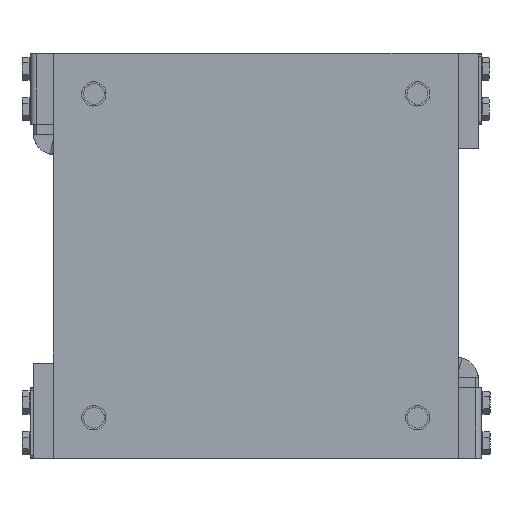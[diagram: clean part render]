
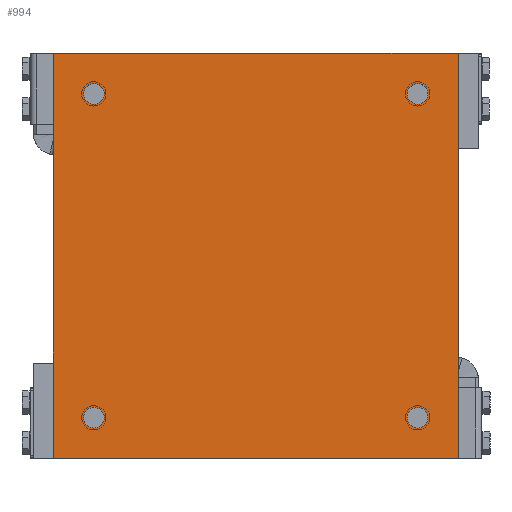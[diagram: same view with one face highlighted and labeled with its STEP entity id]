
A CAD part, top view. The second image highlights one B-rep face of the part: STEP entity #994.
In plain terms, the highlighted planar face has unit normal (0, 0, 1).
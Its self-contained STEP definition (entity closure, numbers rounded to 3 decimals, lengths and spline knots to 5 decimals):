
#994=ADVANCED_FACE('360:635',(#1466,#1467,#1468,#1469,#1470),#1471,.T.);
#1466=FACE_BOUND('',#2364,.T.);
#1467=FACE_BOUND('',#2365,.T.);
#1468=FACE_BOUND('',#2366,.T.);
#1469=FACE_BOUND('',#2367,.T.);
#1470=FACE_OUTER_BOUND('',#2368,.T.);
#1471=PLANE('',#2369);
#2364=EDGE_LOOP('',(#3332,#3333));
#2365=EDGE_LOOP('',(#3334,#3335));
#2366=EDGE_LOOP('',(#3336,#3337));
#2367=EDGE_LOOP('',(#3338,#3339));
#2368=EDGE_LOOP('',(#3340,#3341,#3342,#3343));
#2369=AXIS2_PLACEMENT_3D('',#3344,#3345,#3346);
#3332=ORIENTED_EDGE('',*,*,#6265,.T.);
#3333=ORIENTED_EDGE('',*,*,#6268,.T.);
#3334=ORIENTED_EDGE('',*,*,#6261,.T.);
#3335=ORIENTED_EDGE('',*,*,#6269,.T.);
#3336=ORIENTED_EDGE('',*,*,#6257,.T.);
#3337=ORIENTED_EDGE('',*,*,#6270,.T.);
#3338=ORIENTED_EDGE('',*,*,#6253,.T.);
#3339=ORIENTED_EDGE('',*,*,#6271,.T.);
#3340=ORIENTED_EDGE('',*,*,#6272,.T.);
#3341=ORIENTED_EDGE('',*,*,#6273,.T.);
#3342=ORIENTED_EDGE('',*,*,#6274,.T.);
#3343=ORIENTED_EDGE('',*,*,#6275,.T.);
#3344=CARTESIAN_POINT('',(0.0,0.0,0.01));
#3345=DIRECTION('',(0.0,0.0,1.0));
#3346=DIRECTION('',(1.0,-0.0,0.0));
#6253=EDGE_CURVE('380:244',#7212,#7209,#7213,.T.);
#6257=EDGE_CURVE('380:638',#7220,#7217,#7221,.T.);
#6261=EDGE_CURVE('381:6601',#7228,#7225,#7229,.T.);
#6265=EDGE_CURVE('381:7091',#7236,#7233,#7237,.T.);
#6268=EDGE_CURVE('381:7091',#7233,#7236,#7241,.T.);
#6269=EDGE_CURVE('381:6601',#7225,#7228,#7242,.T.);
#6270=EDGE_CURVE('380:638',#7217,#7220,#7243,.T.);
#6271=EDGE_CURVE('380:244',#7209,#7212,#7244,.T.);
#6272=EDGE_CURVE('360:656',#7245,#7246,#7247,.T.);
#6273=EDGE_CURVE('360:668',#7246,#7248,#7249,.T.);
#6274=EDGE_CURVE('360:677',#7248,#7250,#7251,.T.);
#6275=EDGE_CURVE('360:683',#7250,#7245,#7252,.T.);
#7209=VERTEX_POINT('',#8704);
#7212=VERTEX_POINT('',#8708);
#7213=CIRCLE('',#8709,0.0051);
#7217=VERTEX_POINT('',#8714);
#7220=VERTEX_POINT('',#8718);
#7221=CIRCLE('',#8719,0.0051);
#7225=VERTEX_POINT('',#8724);
#7228=VERTEX_POINT('',#8728);
#7229=CIRCLE('',#8729,0.0051);
#7233=VERTEX_POINT('',#8734);
#7236=VERTEX_POINT('',#8738);
#7237=CIRCLE('',#8739,0.0051);
#7241=CIRCLE('',#8744,0.0051);
#7242=CIRCLE('',#8745,0.0051);
#7243=CIRCLE('',#8746,0.0051);
#7244=CIRCLE('',#8747,0.0051);
#7245=VERTEX_POINT('',#8748);
#7246=VERTEX_POINT('',#8749);
#7247=LINE('',#8750,#8751);
#7248=VERTEX_POINT('',#8752);
#7249=LINE('',#8753,#8754);
#7250=VERTEX_POINT('',#8755);
#7251=LINE('',#8756,#8757);
#7252=LINE('',#8758,#8759);
#8704=CARTESIAN_POINT('',(0.0851,0.08,0.01));
#8708=CARTESIAN_POINT('',(0.0749,0.08,0.01));
#8709=AXIS2_PLACEMENT_3D('',#11308,#11309,#11310);
#8714=CARTESIAN_POINT('',(-0.0749,0.08,0.01));
#8718=CARTESIAN_POINT('',(-0.0851,0.08,0.01));
#8719=AXIS2_PLACEMENT_3D('',#11316,#11317,#11318);
#8724=CARTESIAN_POINT('',(0.0851,-0.08,0.01));
#8728=CARTESIAN_POINT('',(0.0749,-0.08,0.01));
#8729=AXIS2_PLACEMENT_3D('',#11324,#11325,#11326);
#8734=CARTESIAN_POINT('',(-0.0749,-0.08,0.01));
#8738=CARTESIAN_POINT('',(-0.0851,-0.08,0.01));
#8739=AXIS2_PLACEMENT_3D('',#11332,#11333,#11334);
#8744=AXIS2_PLACEMENT_3D('',#11339,#11340,#11341);
#8745=AXIS2_PLACEMENT_3D('',#11342,#11343,#11344);
#8746=AXIS2_PLACEMENT_3D('',#11345,#11346,#11347);
#8747=AXIS2_PLACEMENT_3D('',#11348,#11349,#11350);
#8748=CARTESIAN_POINT('',(-0.1,0.1,0.01));
#8749=CARTESIAN_POINT('',(-0.1,-0.1,0.01));
#8750=CARTESIAN_POINT('',(-0.1,0.0375,0.01));
#8751=VECTOR('',#11351,1.0);
#8752=CARTESIAN_POINT('',(0.1,-0.1,0.01));
#8753=CARTESIAN_POINT('',(-0.04375,-0.1,0.01));
#8754=VECTOR('',#11352,1.0);
#8755=CARTESIAN_POINT('',(0.1,0.1,0.01));
#8756=CARTESIAN_POINT('',(0.1,-0.0375,0.01));
#8757=VECTOR('',#11353,1.0);
#8758=CARTESIAN_POINT('',(0.04375,0.1,0.01));
#8759=VECTOR('',#11354,1.0);
#11308=CARTESIAN_POINT('',(0.08,0.08,0.01));
#11309=DIRECTION('',(0.0,0.0,-1.0));
#11310=DIRECTION('',(1.0,0.0,0.0));
#11316=CARTESIAN_POINT('',(-0.08,0.08,0.01));
#11317=DIRECTION('',(0.0,0.0,-1.0));
#11318=DIRECTION('',(1.0,0.0,0.0));
#11324=CARTESIAN_POINT('',(0.08,-0.08,0.01));
#11325=DIRECTION('',(0.0,0.0,-1.0));
#11326=DIRECTION('',(1.0,0.0,0.0));
#11332=CARTESIAN_POINT('',(-0.08,-0.08,0.01));
#11333=DIRECTION('',(0.0,0.0,-1.0));
#11334=DIRECTION('',(1.0,0.0,0.0));
#11339=CARTESIAN_POINT('',(-0.08,-0.08,0.01));
#11340=DIRECTION('',(0.0,0.0,-1.0));
#11341=DIRECTION('',(1.0,0.0,0.0));
#11342=CARTESIAN_POINT('',(0.08,-0.08,0.01));
#11343=DIRECTION('',(0.0,0.0,-1.0));
#11344=DIRECTION('',(1.0,0.0,0.0));
#11345=CARTESIAN_POINT('',(-0.08,0.08,0.01));
#11346=DIRECTION('',(0.0,0.0,-1.0));
#11347=DIRECTION('',(1.0,0.0,0.0));
#11348=CARTESIAN_POINT('',(0.08,0.08,0.01));
#11349=DIRECTION('',(0.0,0.0,-1.0));
#11350=DIRECTION('',(1.0,0.0,0.0));
#11351=DIRECTION('',(0.,-1.0,0.0));
#11352=DIRECTION('',(1.0,0.,-0.0));
#11353=DIRECTION('',(0.0,1.0,-0.0));
#11354=DIRECTION('',(-1.0,0.,0.0));
